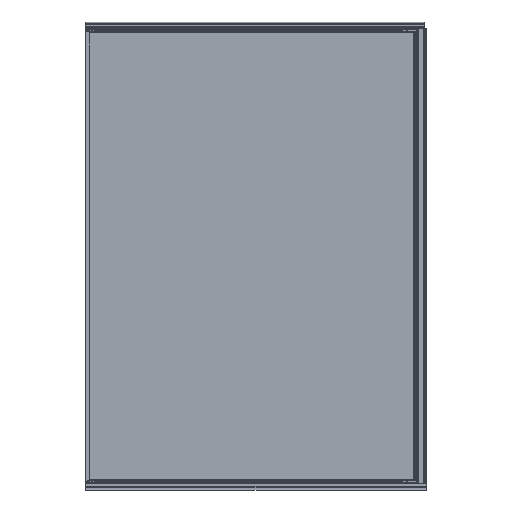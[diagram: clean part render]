
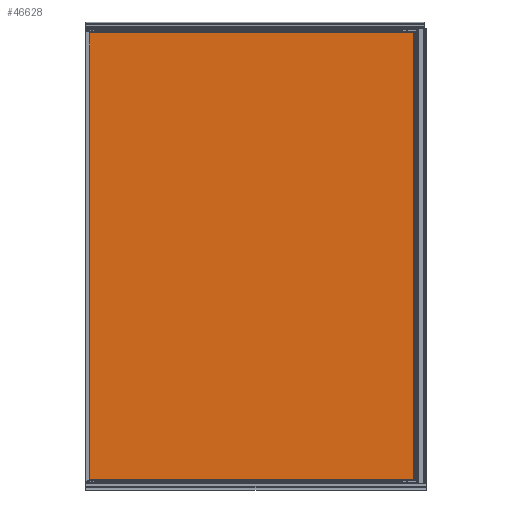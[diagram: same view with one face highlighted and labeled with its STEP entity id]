
A CAD part, front view. The second image highlights one B-rep face of the part: STEP entity #46628.
In plain terms, the highlighted planar face has unit normal (0, -1, 0).
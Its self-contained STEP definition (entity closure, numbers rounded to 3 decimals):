
#2126=PLANE('',#49676);
#3456=FACE_OUTER_BOUND('',#6159,.T.);
#6159=EDGE_LOOP('',(#30344,#30345,#30346,#30347));
#9184=LINE('',#69515,#12233);
#9188=LINE('',#69522,#12237);
#9191=LINE('',#69528,#12240);
#9193=LINE('',#69531,#12242);
#12233=VECTOR('',#56066,10.);
#12237=VECTOR('',#56072,10.);
#12240=VECTOR('',#56077,10.);
#12242=VECTOR('',#56081,10.);
#17847=VERTEX_POINT('',#69512);
#17848=VERTEX_POINT('',#69514);
#17850=VERTEX_POINT('',#69520);
#17852=VERTEX_POINT('',#69526);
#22453=EDGE_CURVE('',#17847,#17848,#9184,.T.);
#22457=EDGE_CURVE('',#17850,#17847,#9188,.T.);
#22460=EDGE_CURVE('',#17852,#17850,#9191,.T.);
#22462=EDGE_CURVE('',#17848,#17852,#9193,.T.);
#30344=ORIENTED_EDGE('',*,*,#22462,.F.);
#30345=ORIENTED_EDGE('',*,*,#22453,.F.);
#30346=ORIENTED_EDGE('',*,*,#22457,.F.);
#30347=ORIENTED_EDGE('',*,*,#22460,.F.);
#46628=ADVANCED_FACE('',(#3456),#2126,.F.);
#49676=AXIS2_PLACEMENT_3D('',#69532,#56082,#56083);
#56066=DIRECTION('',(-1.,0.,0.));
#56072=DIRECTION('',(0.,0.,-1.));
#56077=DIRECTION('',(1.,0.,0.));
#56081=DIRECTION('',(0.,0.,1.));
#56082=DIRECTION('center_axis',(0.,1.,0.));
#56083=DIRECTION('ref_axis',(0.,0.,
1.));
#69512=CARTESIAN_POINT('',(-31.5,9.3,-778.5));
#69514=CARTESIAN_POINT('',(-1168.5,9.3,-778.5));
#69515=CARTESIAN_POINT('',(-31.5,9.3,-778.5));
#69520=CARTESIAN_POINT('',(-31.5,9.3,778.5));
#69522=CARTESIAN_POINT('',(-31.5,9.3,778.5));
#69526=CARTESIAN_POINT('',(-1168.5,9.3,778.5));
#69528=CARTESIAN_POINT('',(-1168.5,9.3,778.5));
#69531=CARTESIAN_POINT('',(-1168.5,9.3,-778.5));
#69532=CARTESIAN_POINT('Origin',(-600.,9.3,0.));
